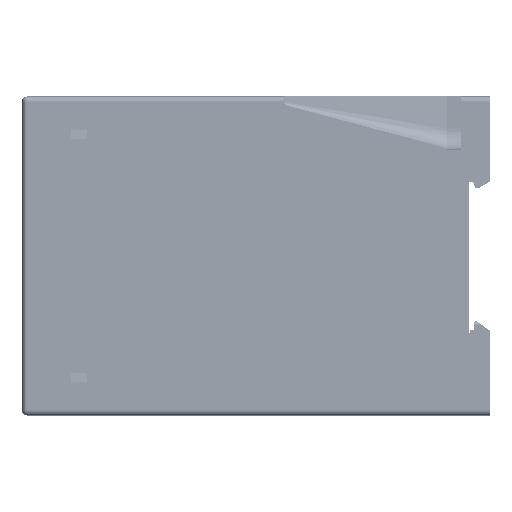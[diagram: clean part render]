
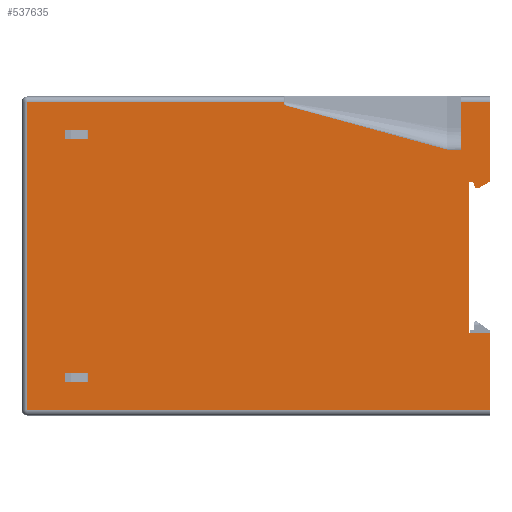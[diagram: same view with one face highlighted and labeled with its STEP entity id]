
A CAD part, left-side view. The second image highlights one B-rep face of the part: STEP entity #537635.
In plain terms, the highlighted planar face has unit normal (-1, 0, 0).
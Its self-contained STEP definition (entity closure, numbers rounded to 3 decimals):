
#24642=PLANE('',#577830);
#26072=FACE_BOUND('',#85748,.T.);
#26073=FACE_BOUND('',#85749,.T.);
#55274=FACE_OUTER_BOUND('',#85747,.T.);
#85747=EDGE_LOOP('',(#473082,#473083,#473084,#473085,#473086,#473087,#473088,
#473089,#473090,#473091,#473092,#473093,#473094,#473095,#473096,#473097,
#473098,#473099));
#85748=EDGE_LOOP('',(#473100,#473101,#473102,#473103));
#85749=EDGE_LOOP('',(#473104,#473105,#473106,#473107));
#96391=CIRCLE('',#577831,0.7);
#156269=LINE('',#881889,#215998);
#156292=LINE('',#881939,#216021);
#156293=LINE('',#881942,#216022);
#156301=LINE('',#881963,#216030);
#156319=LINE('',#882001,#216048);
#156325=LINE('',#882013,#216054);
#156331=LINE('',#882025,#216060);
#156337=LINE('',#882037,#216066);
#156350=LINE('',#882063,#216079);
#156351=LINE('',#882065,#216080);
#156352=LINE('',#882066,#216081);
#156353=LINE('',#882067,#216082);
#156354=LINE('',#882069,#216083);
#156355=LINE('',#882071,#216084);
#156356=LINE('',#882073,#216085);
#156357=LINE('',#882075,#216086);
#156358=LINE('',#882078,#216087);
#156359=LINE('',#882081,#216088);
#156360=LINE('',#882083,#216089);
#156361=LINE('',#882085,#216090);
#156362=LINE('',#882086,#216091);
#156363=LINE('',#882089,#216092);
#156364=LINE('',#882091,#216093);
#156365=LINE('',#882093,#216094);
#156366=LINE('',#882094,#216095);
#215998=VECTOR('',#717384,1000.);
#216021=VECTOR('',#717417,1000.);
#216022=VECTOR('',#717420,1000.);
#216030=VECTOR('',#717434,1000.);
#216048=VECTOR('',#717458,1000.);
#216054=VECTOR('',#717468,1000.);
#216060=VECTOR('',#717478,1000.);
#216066=VECTOR('',#717488,1000.);
#216079=VECTOR('',#717507,1000.);
#216080=VECTOR('',#717508,1000.);
#216081=VECTOR('',#717509,1000.);
#216082=VECTOR('',#717510,1000.);
#216083=VECTOR('',#717511,1000.);
#216084=VECTOR('',#717512,1000.);
#216085=VECTOR('',#717513,1000.);
#216086=VECTOR('',#717514,10.);
#216087=VECTOR('',#717517,1000.);
#216088=VECTOR('',#717518,1000.);
#216089=VECTOR('',#717519,1000.);
#216090=VECTOR('',#717520,1000.);
#216091=VECTOR('',#717521,1000.);
#216092=VECTOR('',#717522,1000.);
#216093=VECTOR('',#717523,1000.);
#216094=VECTOR('',#717524,1000.);
#216095=VECTOR('',#717525,1000.);
#259325=VERTEX_POINT('',#881886);
#259326=VERTEX_POINT('',#881888);
#259346=VERTEX_POINT('',#881932);
#259349=VERTEX_POINT('',#881941);
#259358=VERTEX_POINT('',#881960);
#259359=VERTEX_POINT('',#881962);
#259376=VERTEX_POINT('',#882000);
#259380=VERTEX_POINT('',#882012);
#259384=VERTEX_POINT('',#882024);
#259388=VERTEX_POINT('',#882036);
#259397=VERTEX_POINT('',#882061);
#259398=VERTEX_POINT('',#882062);
#259399=VERTEX_POINT('',#882064);
#259400=VERTEX_POINT('',#882068);
#259401=VERTEX_POINT('',#882070);
#259402=VERTEX_POINT('',#882072);
#259403=VERTEX_POINT('',#882074);
#259404=VERTEX_POINT('',#882076);
#259405=VERTEX_POINT('',#882079);
#259406=VERTEX_POINT('',#882080);
#259407=VERTEX_POINT('',#882082);
#259408=VERTEX_POINT('',#882084);
#259409=VERTEX_POINT('',#882087);
#259410=VERTEX_POINT('',#882088);
#259411=VERTEX_POINT('',#882090);
#259412=VERTEX_POINT('',#882092);
#330705=EDGE_CURVE('',#259326,#259325,#156269,.T.);
#330731=EDGE_CURVE('',#259346,#259326,#156292,.T.);
#330732=EDGE_CURVE('',#259346,#259349,#156293,.T.);
#330742=EDGE_CURVE('',#259358,#259359,#156301,.T.);
#330762=EDGE_CURVE('',#259376,#259359,#156319,.T.);
#330768=EDGE_CURVE('',#259380,#259376,#156325,.T.);
#330774=EDGE_CURVE('',#259384,#259380,#156331,.T.);
#330780=EDGE_CURVE('',#259388,#259384,#156337,.T.);
#330793=EDGE_CURVE('',#259397,#259398,#156350,.T.);
#330794=EDGE_CURVE('',#259398,#259399,#156351,.T.);
#330795=EDGE_CURVE('',#259399,#259349,#156352,.T.);
#330796=EDGE_CURVE('',#259325,#259388,#156353,.T.);
#330797=EDGE_CURVE('',#259358,#259400,#156354,.T.);
#330798=EDGE_CURVE('',#259401,#259400,#156355,.T.);
#330799=EDGE_CURVE('',#259402,#259401,#156356,.T.);
#330800=EDGE_CURVE('',#259402,#259403,#156357,.T.);
#330801=EDGE_CURVE('',#259403,#259404,#96391,.T.);
#330802=EDGE_CURVE('',#259397,#259404,#156358,.T.);
#330803=EDGE_CURVE('',#259405,#259406,#156359,.T.);
#330804=EDGE_CURVE('',#259406,#259407,#156360,.T.);
#330805=EDGE_CURVE('',#259407,#259408,#156361,.T.);
#330806=EDGE_CURVE('',#259408,#259405,#156362,.T.);
#330807=EDGE_CURVE('',#259409,#259410,#156363,.T.);
#330808=EDGE_CURVE('',#259410,#259411,#156364,.T.);
#330809=EDGE_CURVE('',#259411,#259412,#156365,.T.);
#330810=EDGE_CURVE('',#259412,#259409,#156366,.T.);
#473082=ORIENTED_EDGE('',*,*,#330793,.T.);
#473083=ORIENTED_EDGE('',*,*,#330794,.T.);
#473084=ORIENTED_EDGE('',*,*,#330795,.T.);
#473085=ORIENTED_EDGE('',*,*,#330732,.F.);
#473086=ORIENTED_EDGE('',*,*,#330731,.T.);
#473087=ORIENTED_EDGE('',*,*,#330705,.T.);
#473088=ORIENTED_EDGE('',*,*,#330796,.T.);
#473089=ORIENTED_EDGE('',*,*,#330780,.T.);
#473090=ORIENTED_EDGE('',*,*,#330774,.T.);
#473091=ORIENTED_EDGE('',*,*,#330768,.T.);
#473092=ORIENTED_EDGE('',*,*,#330762,.T.);
#473093=ORIENTED_EDGE('',*,*,#330742,.F.);
#473094=ORIENTED_EDGE('',*,*,#330797,.T.);
#473095=ORIENTED_EDGE('',*,*,#330798,.F.);
#473096=ORIENTED_EDGE('',*,*,#330799,.F.);
#473097=ORIENTED_EDGE('',*,*,#330800,.T.);
#473098=ORIENTED_EDGE('',*,*,#330801,.T.);
#473099=ORIENTED_EDGE('',*,*,#330802,.F.);
#473100=ORIENTED_EDGE('',*,*,#330803,.T.);
#473101=ORIENTED_EDGE('',*,*,#330804,.T.);
#473102=ORIENTED_EDGE('',*,*,#330805,.T.);
#473103=ORIENTED_EDGE('',*,*,#330806,.T.);
#473104=ORIENTED_EDGE('',*,*,#330807,.T.);
#473105=ORIENTED_EDGE('',*,*,#330808,.T.);
#473106=ORIENTED_EDGE('',*,*,#330809,.T.);
#473107=ORIENTED_EDGE('',*,*,#330810,.T.);
#537635=ADVANCED_FACE('',(#55274,#26072,#26073),#24642,.F.);
#577830=AXIS2_PLACEMENT_3D('',#882060,#717505,#717506);
#577831=AXIS2_PLACEMENT_3D('',#882077,#717515,#717516);
#717384=DIRECTION('',(0.,0.,1.));
#717417=DIRECTION('',(0.,1.,0.));
#717420=DIRECTION('',(0.,0.,-1.));
#717434=DIRECTION('',(0.,0.,-1.));
#717458=DIRECTION('',(0.,-0.866,0.5));
#717468=DIRECTION('',(0.,-1.,0.));
#717478=DIRECTION('',(0.,-0.5,-0.866));
#717488=DIRECTION('',(0.,-0.259,-0.966));
#717505=DIRECTION('center_axis',(1.,0.,0.));
#717506=DIRECTION('ref_axis',(0.,1.,0.));
#717507=DIRECTION('',(0.,1.,0.));
#717508=DIRECTION('',(0.,0.,-1.));
#717509=DIRECTION('',(0.,-1.,0.));
#717510=DIRECTION('',(0.,-1.,0.));
#717511=DIRECTION('',(0.,1.,0.));
#717512=DIRECTION('',(0.,0.,1.));
#717513=DIRECTION('',(0.,-1.,0.));
#717514=DIRECTION('',(0.,0.965,0.263));
#717515=DIRECTION('center_axis',(1.,0.,0.));
#717516=DIRECTION('ref_axis',(0.,1.,0.));
#717517=DIRECTION('',(0.,0.,-1.));
#717518=DIRECTION('',(0.,0.,1.));
#717519=DIRECTION('',(0.,-1.,0.));
#717520=DIRECTION('',(0.,0.,-1.));
#717521=DIRECTION('',(0.,1.,0.));
#717522=DIRECTION('',(0.,0.,-1.));
#717523=DIRECTION('',(0.,1.,0.));
#717524=DIRECTION('',(0.,0.,1.));
#717525=DIRECTION('',(0.,-1.,0.));
#881886=CARTESIAN_POINT('',(-74.5,5.,17.5));
#881888=CARTESIAN_POINT('',(-74.5,5.,-18.));
#881889=CARTESIAN_POINT('',(-74.5,5.,-18.));
#881932=CARTESIAN_POINT('',(-74.5,0.,-18.));
#881939=CARTESIAN_POINT('',(-74.5,0.,-18.));
#881941=CARTESIAN_POINT('',(-74.5,0.,-36.3));
#881942=CARTESIAN_POINT('',(-74.5,0.,37.5));
#881960=CARTESIAN_POINT('',(-74.5,0.,36.3));
#881962=CARTESIAN_POINT('',(-74.5,0.,17.5));
#881963=CARTESIAN_POINT('',(-74.5,0.,37.5));
#882000=CARTESIAN_POINT('',(-74.5,2.598,16.));
#882001=CARTESIAN_POINT('',(-74.5,2.598,16.));
#882012=CARTESIAN_POINT('',(-74.5,3.351,16.));
#882013=CARTESIAN_POINT('',(-74.5,3.351,16.));
#882024=CARTESIAN_POINT('',(-74.5,3.812,16.8));
#882025=CARTESIAN_POINT('',(-74.5,3.812,16.8));
#882036=CARTESIAN_POINT('',(-74.5,4.,17.5));
#882037=CARTESIAN_POINT('',(-74.5,4.,17.5));
#882060=CARTESIAN_POINT('Origin',(-74.5,110.,37.5));
#882061=CARTESIAN_POINT('',(-74.5,48.5,36.3));
#882062=CARTESIAN_POINT('',(-74.5,108.8,36.3));
#882063=CARTESIAN_POINT('',(-74.5,110.,36.3));
#882064=CARTESIAN_POINT('',(-74.5,108.8,-36.3));
#882065=CARTESIAN_POINT('',(-74.5,108.8,37.5));
#882066=CARTESIAN_POINT('',(-74.5,110.,-36.3));
#882067=CARTESIAN_POINT('',(-74.5,5.,17.5));
#882068=CARTESIAN_POINT('',(-74.5,6.8,36.3));
#882069=CARTESIAN_POINT('',(-74.5,6.8,36.3));
#882070=CARTESIAN_POINT('',(-74.5,6.8,25.));
#882071=CARTESIAN_POINT('',(-74.5,6.8,37.5));
#882072=CARTESIAN_POINT('',(-74.5,10.,25.));
#882073=CARTESIAN_POINT('',(-74.5,10.,25.));
#882074=CARTESIAN_POINT('',(-74.5,47.984,35.359));
#882075=CARTESIAN_POINT('',(-74.5,10.,25.));
#882076=CARTESIAN_POINT('',(-74.5,48.5,36.035));
#882077=CARTESIAN_POINT('Origin',(-74.5,47.8,36.035));
#882078=CARTESIAN_POINT('',(-74.5,48.5,37.5));
#882079=CARTESIAN_POINT('',(-74.5,100.,-29.6));
#882080=CARTESIAN_POINT('',(-74.5,100.,-27.4));
#882081=CARTESIAN_POINT('',(-74.5,100.,-27.4));
#882082=CARTESIAN_POINT('',(-74.5,94.6,-27.4));
#882083=CARTESIAN_POINT('',(-74.5,94.6,-27.4));
#882084=CARTESIAN_POINT('',(-74.5,94.6,-29.6));
#882085=CARTESIAN_POINT('',(-74.5,94.6,-27.4));
#882086=CARTESIAN_POINT('',(-74.5,94.6,-29.6));
#882087=CARTESIAN_POINT('',(-74.5,94.6,29.6));
#882088=CARTESIAN_POINT('',(-74.5,94.6,27.4));
#882089=CARTESIAN_POINT('',(-74.5,94.6,27.4));
#882090=CARTESIAN_POINT('',(-74.5,100.,27.4));
#882091=CARTESIAN_POINT('',(-74.5,100.,27.4));
#882092=CARTESIAN_POINT('',(-74.5,100.,29.6));
#882093=CARTESIAN_POINT('',(-74.5,100.,27.4));
#882094=CARTESIAN_POINT('',(-74.5,100.,29.6));
